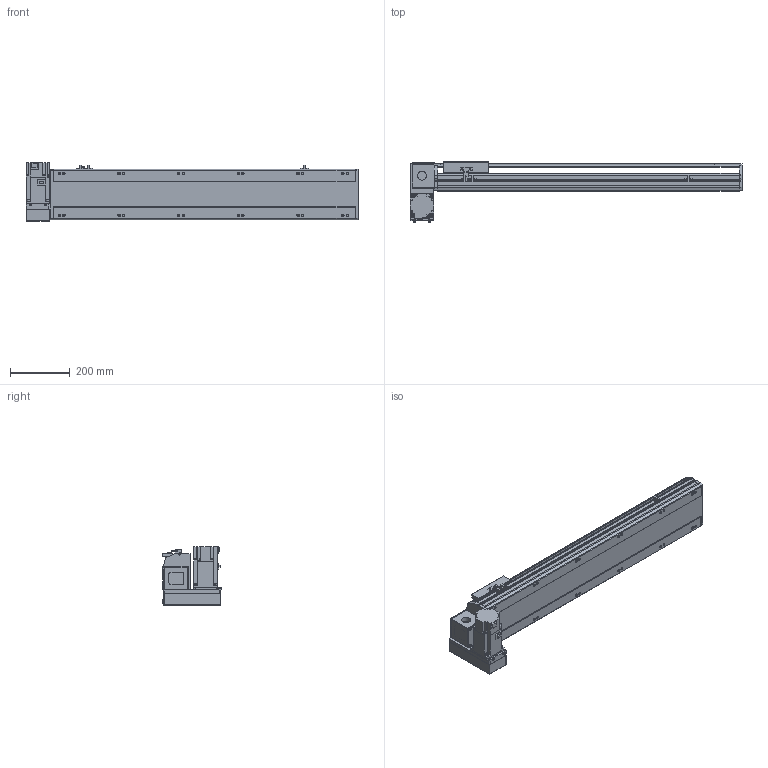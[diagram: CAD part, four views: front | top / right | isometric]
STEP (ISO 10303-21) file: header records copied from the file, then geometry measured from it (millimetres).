
FILE_DESCRIPTION(/* description */ ('STEP AP214'),/* implementation_level */ '2;1');
FILE_NAME(/* name */ 'PBS170-P40-S750-LD-T75-C1-N(0)',/* time_stamp */ '2022-06-07T09:51:01+02:00',/* author */ ('License CC BY-ND 4.0'),/* organization */ ('CADENAS'),/* preprocessor_version */ 'ST-DEVELOPER v18.102',/* originating_system */ 'PARTsolutions',/* authorisation */ ' ');
FILE_SCHEMA (('AUTOMOTIVE_DESIGN {1 0 10303 214 3 1 1}'));
Length unit declared in the file: millimetre
Products named in the file (7): PBS170-P40-S750-LD-T75-C1-N(0); PBS170_sensor; PBS170_plant; PBS170_sliser; T75-p1; PBS170T-LD_motors; PBS170-S750()_body
Assembly tree (8 placements, depth 2):
  PBS170-P40-S750-LD-T75-C1-N(0)
    PBS170_sensor  x3
    PBS170_plant
    PBS170_sliser
    T75-p1
    PBS170T-LD_motors
    PBS170-S750()_body
Bounding box: 1113 x 201 x 197.3 mm (x, y, z)
Volume: 9209679.2 mm3; surface area: 1225027.9 mm2
Topology: 8 solids, 8 shells, 1050 faces, 2795 edges, 1822 vertices
Faces by surface type: plane 675, cylinder 323, cone 42, sphere 8, torus 2
Full cylindrical faces by diameter (mm): 3.242 x4, 4 x2, 4.4 x4, 4.5 x6, 4.917 x4, 6 x9, 6.647 x20, 7 x2, 7.5 x4, 8 x8, 8.5 x12, 10 x4, 10.5 x12, 11 x2, 30 x2, 40 x1, 70 x1
Entity records: 30202 total; most frequent: CARTESIAN_POINT 5489, DIRECTION 5160, ORIENTED_EDGE 4908, EDGE_CURVE 2454, AXIS2_PLACEMENT_3D 1777, VERTEX_POINT 1682, LINE 1606, VECTOR 1606
